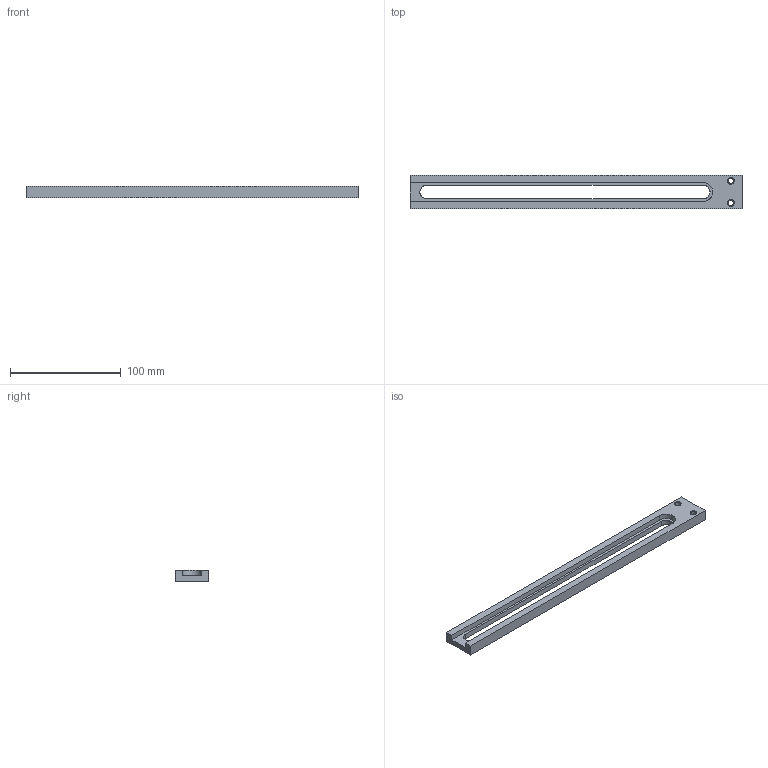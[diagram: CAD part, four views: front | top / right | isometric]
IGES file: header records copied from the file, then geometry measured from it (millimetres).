
Start section:  PTC IGES file: 370727_fck-0003l.igs
Global section: file name: 370727_fck-0003l.igs; native system: Pro/ENGINEER by Parametric Technology Corporation; preprocessor: 2004090; author: KAIHATSU01; organization: Unknown; date: 061017.113804; units: millimetre
Bounding box: 300 x 30 x 10 mm (x, y, z)
Volume: 50633.9 mm3; surface area: 23875.4 mm2
Topology: 1 solids, 1 shells, 26 faces, 65 edges, 41 vertices
Faces by surface type: bspline 26
